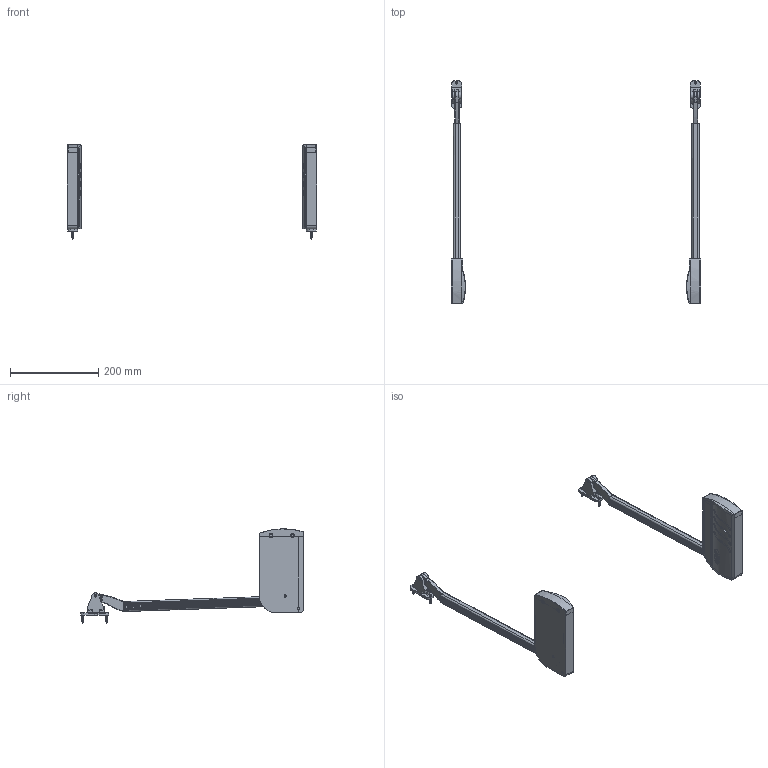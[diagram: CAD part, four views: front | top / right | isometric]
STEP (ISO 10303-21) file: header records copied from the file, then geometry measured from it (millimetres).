
FILE_DESCRIPTION(/* description */ (''),/* implementation_level */ '2;1');
FILE_NAME(/* name */ 'C:\Users\dmitruk\Documents\WORK\Подъемники\Подъемники\Подъемник HERMES закрыто.stp',/* time_stamp */ '2022-08-03T17:37:48+03:00',/* author */ ('dmitruk'),/* organization */ (''),/* preprocessor_version */ 'ST-DEVELOPER v16.5',/* originating_system */ 'Autodesk Inventor 2017',/* authorisation */ '');
FILE_SCHEMA (('AUTOMOTIVE_DESIGN { 1 0 10303 214 3 1 1 }'));
Length unit declared in the file: millimetre
Products named in the file (9): Подъем HERMES \X2\04370430043A
044B0442043E\X0\; Подъем HERMES  \X2\043B04350432
\X0\ закрытый; Крышка \X2\043F043E0434044A0435
043C043D0438043A0430\X0\ 1; Подъем HERMES \X2\04370430043A
0440044B0442044B0439\X0\; Крышка \X2\043F043E0434044A0435
043C043D0438043A0430\X0\; Механизм; Рычаг; Крепл; p50
Assembly tree (14 placements, depth 3):
  Подъем HERMES \X2\04370430043A
044B0442043E\X0\
    Подъем HERMES  \X2\043B04350432
\X0\ закрытый
      Механизм
      Рычаг
      Крепл
      p50  x2
      Крышка \X2\043F043E0434044A0435
043C043D0438043A0430\X0\ 1
    Подъем HERMES \X2\04370430043A
0440044B0442044B0439\X0\
      Крышка \X2\043F043E0434044A0435
043C043D0438043A0430\X0\
      Механизм
      Рычаг
      Крепл
      p50  x2
Bounding box: 564 x 503.45 x 213.25 mm (x, y, z)
Volume: 906453.2 mm3; surface area: 368173.5 mm2
Topology: 14 solids, 14 shells, 954 faces, 2674 edges, 1752 vertices
Faces by surface type: cylinder 450, plane 382, bspline 62, cone 34, torus 26
Full cylindrical faces by diameter (mm): 2.9 x76, 4 x2, 5 x14, 6 x4, 7 x8, 47.803 x2
Entity records: 23034 total; most frequent: CARTESIAN_POINT 9001, ORIENTED_EDGE 3048, DIRECTION 2681, EDGE_CURVE 1522, VERTEX_POINT 1009, AXIS2_PLACEMENT_3D 978, LINE 725, VECTOR 725
